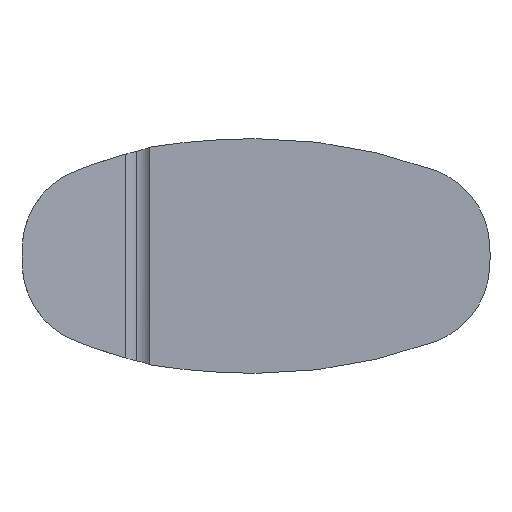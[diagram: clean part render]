
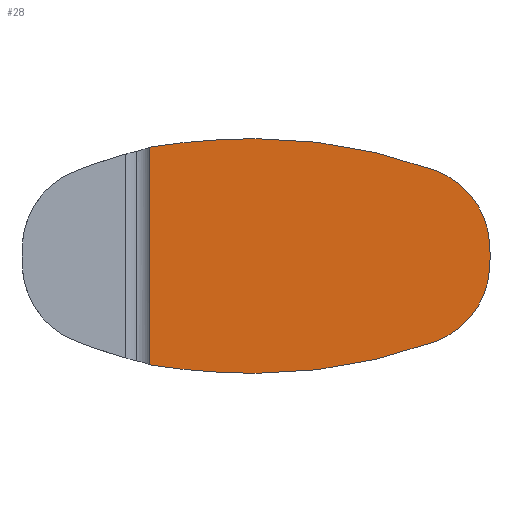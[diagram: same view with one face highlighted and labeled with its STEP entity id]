
A CAD part, top view. The second image highlights one B-rep face of the part: STEP entity #28.
In plain terms, the highlighted planar face has unit normal (0, 0, 1).
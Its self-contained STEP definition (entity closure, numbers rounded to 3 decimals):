
#3 = VERTEX_POINT ( 'NONE', #266 ) ;
#28 = ADVANCED_FACE ( 'NONE', ( #603 ), #80, .T. ) ;
#49 = DIRECTION ( 'NONE',  ( -1., 0., 0. ) ) ;
#55 = EDGE_CURVE ( 'NONE', #795, #782, #787, .T. ) ;
#59 = AXIS2_PLACEMENT_3D ( 'NONE', #661, #128, #49 ) ;
#61 = ORIENTED_EDGE ( 'NONE', *, *, #1080, .T. ) ;
#64 = CARTESIAN_POINT ( 'NONE',  ( -407.5, 0., 5. ) ) ;
#80 = PLANE ( 'NONE',  #518 ) ;
#82 = CIRCLE ( 'NONE', #992, 2000. ) ;
#97 = DIRECTION ( 'NONE',  ( 0., 0., 1. ) ) ;
#112 = CARTESIAN_POINT ( 'NONE',  ( 0., 1550., 5. ) ) ;
#118 = DIRECTION ( 'NONE',  ( -1., 0., 0. ) ) ;
#128 = DIRECTION ( 'NONE',  ( 0., 0., 1. ) ) ;
#140 = CARTESIAN_POINT ( 'NONE',  ( 687.006, -328.303, 5. ) ) ;
#195 = CARTESIAN_POINT ( 'NONE',  ( -407.5, 417.5, 5. ) ) ;
#216 = VERTEX_POINT ( 'NONE', #915 ) ;
#237 = EDGE_CURVE ( 'NONE', #216, #735, #554, .T. ) ;
#252 = DIRECTION ( 'NONE',  ( 1., 0., 0. ) ) ;
#258 = VERTEX_POINT ( 'NONE', #655 ) ;
#266 = CARTESIAN_POINT ( 'NONE',  ( 896.942, -37.331, 5. ) ) ;
#272 = ORIENTED_EDGE ( 'NONE', *, *, #237, .T. ) ;
#296 = DIRECTION ( 'NONE',  ( 1., 0., 0. ) ) ;
#297 = EDGE_CURVE ( 'NONE', #258, #456, #707, .T. ) ;
#302 = AXIS2_PLACEMENT_3D ( 'NONE', #653, #406, #749 ) ;
#307 = AXIS2_PLACEMENT_3D ( 'NONE', #968, #1043, #891 ) ;
#337 = CARTESIAN_POINT ( 'NONE',  ( 0., 2120.962, 5. ) ) ;
#342 = LINE ( 'NONE', #64, #343 ) ;
#343 = VECTOR ( 'NONE', #513, 1000. ) ;
#368 = ORIENTED_EDGE ( 'NONE', *, *, #55, .T. ) ;
#393 = EDGE_CURVE ( 'NONE', #456, #216, #654, .T. ) ;
#401 = CARTESIAN_POINT ( 'NONE',  ( -407.5, -417.5, 5. ) ) ;
#406 = DIRECTION ( 'NONE',  ( 0., 0., 1. ) ) ;
#407 = AXIS2_PLACEMENT_3D ( 'NONE', #730, #643, #549 ) ;
#437 = ORIENTED_EDGE ( 'NONE', *, *, #916, .T. ) ;
#451 = DIRECTION ( 'NONE',  ( 1., 0., 0. ) ) ;
#456 = VERTEX_POINT ( 'NONE', #819 ) ;
#505 = EDGE_CURVE ( 'NONE', #735, #795, #342, .T. ) ;
#507 = ORIENTED_EDGE ( 'NONE', *, *, #751, .T. ) ;
#513 = DIRECTION ( 'NONE',  ( 0., -1., 0. ) ) ;
#516 = EDGE_LOOP ( 'NONE', ( #952, #368, #507, #437, #61, #985, #942, #272 ) ) ;
#518 = AXIS2_PLACEMENT_3D ( 'NONE', #337, #961, #252 ) ;
#549 = DIRECTION ( 'NONE',  ( -1., 0., 0. ) ) ;
#554 = CIRCLE ( 'NONE', #59, 2570.962 ) ;
#603 = FACE_OUTER_BOUND ( 'NONE', #516, .T. ) ;
#633 = AXIS2_PLACEMENT_3D ( 'NONE', #1087, #894, #118 ) ;
#643 = DIRECTION ( 'NONE',  ( 0., 0., 1. ) ) ;
#653 = CARTESIAN_POINT ( 'NONE',  ( -352.5, 0., 5. ) ) ;
#654 = CIRCLE ( 'NONE', #633, 2000. ) ;
#655 = CARTESIAN_POINT ( 'NONE',  ( 896.942, 37.331, 5. ) ) ;
#661 = CARTESIAN_POINT ( 'NONE',  ( 0., -2120.962, 5. ) ) ;
#707 = CIRCLE ( 'NONE', #760, 320. ) ;
#730 = CARTESIAN_POINT ( 'NONE',  ( 577.085, -27.775, 5. ) ) ;
#735 = VERTEX_POINT ( 'NONE', #195 ) ;
#749 = DIRECTION ( 'NONE',  ( -1., 0., 0. ) ) ;
#751 = EDGE_CURVE ( 'NONE', #782, #1137, #82, .T. ) ;
#760 = AXIS2_PLACEMENT_3D ( 'NONE', #923, #837, #296 ) ;
#782 = VERTEX_POINT ( 'NONE', #838 ) ;
#787 = CIRCLE ( 'NONE', #307, 2570.962 ) ;
#795 = VERTEX_POINT ( 'NONE', #401 ) ;
#799 = CIRCLE ( 'NONE', #407, 320. ) ;
#819 = CARTESIAN_POINT ( 'NONE',  ( 687.006, 328.303, 5. ) ) ;
#837 = DIRECTION ( 'NONE',  ( 0., 0., 1. ) ) ;
#838 = CARTESIAN_POINT ( 'NONE',  ( 0., -450., 5. ) ) ;
#891 = DIRECTION ( 'NONE',  ( 1., 0., 0. ) ) ;
#894 = DIRECTION ( 'NONE',  ( 0., 0., 1. ) ) ;
#915 = CARTESIAN_POINT ( 'NONE',  ( 0., 450., 5. ) ) ;
#916 = EDGE_CURVE ( 'NONE', #1137, #3, #799, .T. ) ;
#923 = CARTESIAN_POINT ( 'NONE',  ( 577.085, 27.775, 5. ) ) ;
#942 = ORIENTED_EDGE ( 'NONE', *, *, #393, .T. ) ;
#952 = ORIENTED_EDGE ( 'NONE', *, *, #505, .T. ) ;
#961 = DIRECTION ( 'NONE',  ( 0., 0., 1. ) ) ;
#968 = CARTESIAN_POINT ( 'NONE',  ( 0., 2120.962, 5. ) ) ;
#985 = ORIENTED_EDGE ( 'NONE', *, *, #297, .T. ) ;
#992 = AXIS2_PLACEMENT_3D ( 'NONE', #112, #97, #451 ) ;
#1021 = CIRCLE ( 'NONE', #302, 1250. ) ;
#1043 = DIRECTION ( 'NONE',  ( 0., 0., 1. ) ) ;
#1080 = EDGE_CURVE ( 'NONE', #3, #258, #1021, .T. ) ;
#1087 = CARTESIAN_POINT ( 'NONE',  ( 0., -1550., 5. ) ) ;
#1137 = VERTEX_POINT ( 'NONE', #140 ) ;
